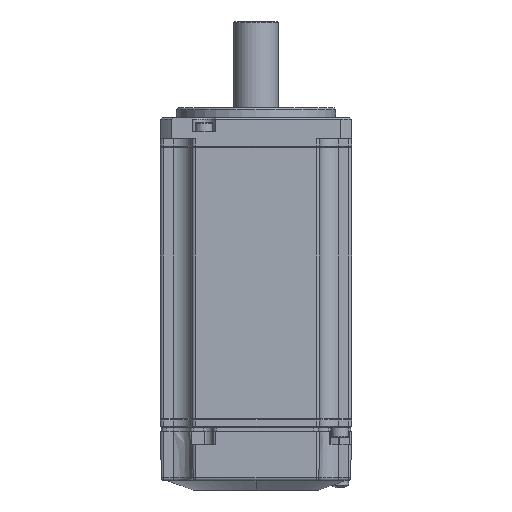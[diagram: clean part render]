
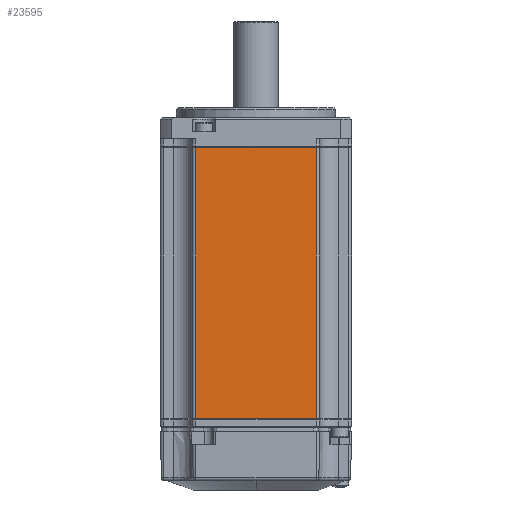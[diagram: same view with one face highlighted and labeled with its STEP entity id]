
A CAD part, front view. The second image highlights one B-rep face of the part: STEP entity #23595.
In plain terms, the highlighted planar face has unit normal (0, -1, 0).
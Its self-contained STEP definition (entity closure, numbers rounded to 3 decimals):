
#1264 = LINE ( 'NONE', #22758, #13482 ) ;
#6296 = CARTESIAN_POINT ( 'NONE',  ( -1104.688, -60., -94.5 ) ) ;
#7982 = CARTESIAN_POINT ( 'NONE',  ( -1104.688, -60., -9.5 ) ) ;
#12270 = ORIENTED_EDGE ( 'NONE', *, *, #30713, .F. ) ;
#12859 = DIRECTION ( 'NONE',  ( 1., 0., 0. ) ) ;
#13482 = VECTOR ( 'NONE', #12859, 1000. ) ;
#16464 = VECTOR ( 'NONE', #34853, 1000. ) ;
#17373 = VERTEX_POINT ( 'NONE', #54160 ) ;
#22758 = CARTESIAN_POINT ( 'NONE',  ( -1142.688, -60., -94.5 ) ) ;
#23595 = ADVANCED_FACE ( 'NONE', ( #28090 ), #66119, .F. ) ;
#24107 = EDGE_CURVE ( 'NONE', #104419, #98107, #114893, .T. ) ;
#25619 = CARTESIAN_POINT ( 'NONE',  ( -1142.688, -60., -9.5 ) ) ;
#27960 = ORIENTED_EDGE ( 'NONE', *, *, #24107, .F. ) ;
#28090 = FACE_OUTER_BOUND ( 'NONE', #62752, .T. ) ;
#28871 = ORIENTED_EDGE ( 'NONE', *, *, #86056, .T. ) ;
#30713 = EDGE_CURVE ( 'NONE', #111752, #104419, #76898, .T. ) ;
#31384 = VECTOR ( 'NONE', #50603, 1000. ) ;
#32380 = CARTESIAN_POINT ( 'NONE',  ( -1142.688, -60., -9.5 ) ) ;
#34853 = DIRECTION ( 'NONE',  ( 0., 0., -1. ) ) ;
#46639 = EDGE_CURVE ( 'NONE', #111752, #17373, #68112, .T. ) ;
#48378 = VECTOR ( 'NONE', #103716, 1000. ) ;
#50603 = DIRECTION ( 'NONE',  ( 0., 0., -1. ) ) ;
#53138 = ORIENTED_EDGE ( 'NONE', *, *, #46639, .T. ) ;
#54160 = CARTESIAN_POINT ( 'NONE',  ( -1142.688, -60., -94.5 ) ) ;
#55066 = DIRECTION ( 'NONE',  ( 0., 0., 1. ) ) ;
#57816 = AXIS2_PLACEMENT_3D ( 'NONE', #101765, #108738, #55066 ) ;
#62752 = EDGE_LOOP ( 'NONE', ( #28871, #27960, #12270, #53138 ) ) ;
#66119 = PLANE ( 'NONE',  #57816 ) ;
#68112 = LINE ( 'NONE', #94410, #31384 ) ;
#76898 = LINE ( 'NONE', #32380, #48378 ) ;
#86056 = EDGE_CURVE ( 'NONE', #17373, #98107, #1264, .T. ) ;
#94410 = CARTESIAN_POINT ( 'NONE',  ( -1142.688, -60., -9.5 ) ) ;
#98107 = VERTEX_POINT ( 'NONE', #6296 ) ;
#99429 = CARTESIAN_POINT ( 'NONE',  ( -1104.688, -60., -9.5 ) ) ;
#101765 = CARTESIAN_POINT ( 'NONE',  ( -1142.688, -60., -9.5 ) ) ;
#103716 = DIRECTION ( 'NONE',  ( 1., 0., 0. ) ) ;
#104419 = VERTEX_POINT ( 'NONE', #99429 ) ;
#108738 = DIRECTION ( 'NONE',  ( 0., 1., 0. ) ) ;
#111752 = VERTEX_POINT ( 'NONE', #25619 ) ;
#114893 = LINE ( 'NONE', #7982, #16464 ) ;
